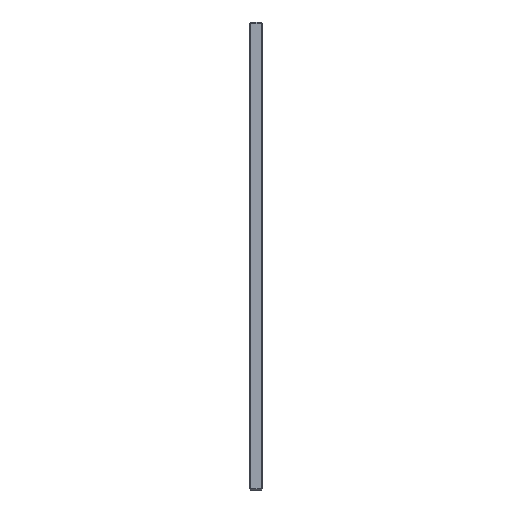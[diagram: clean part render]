
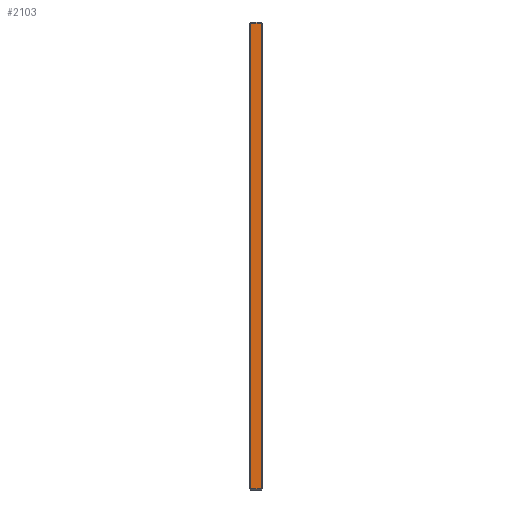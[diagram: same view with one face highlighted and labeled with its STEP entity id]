
A CAD part, left-side view. The second image highlights one B-rep face of the part: STEP entity #2103.
In plain terms, the highlighted planar face has unit normal (-1, 0, 0).
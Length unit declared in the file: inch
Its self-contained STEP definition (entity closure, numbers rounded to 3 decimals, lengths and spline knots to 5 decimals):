
#119 = CARTESIAN_POINT ( 'NONE',  ( -17.6875, 0.5, -8.825 ) ) ;
#123 = PLANE ( 'NONE',  #262 ) ;
#231 = DIRECTION ( 'NONE',  ( 0., 0., -1. ) ) ;
#261 = VECTOR ( 'NONE', #468, 39.37008 ) ;
#262 = AXIS2_PLACEMENT_3D ( 'NONE', #1902, #2142, #1770 ) ;
#340 = CARTESIAN_POINT ( 'NONE',  ( -17.6875, 0.05, 8.825 ) ) ;
#356 = ORIENTED_EDGE ( 'NONE', *, *, #1829, .T. ) ;
#402 = CARTESIAN_POINT ( 'NONE',  ( -17.6875, 0.45, -8.875 ) ) ;
#445 = LINE ( 'NONE', #2102, #261 ) ;
#468 = DIRECTION ( 'NONE',  ( 0., 1., 0. ) ) ;
#540 = FACE_OUTER_BOUND ( 'NONE', #611, .T. ) ;
#546 = ORIENTED_EDGE ( 'NONE', *, *, #871, .T. ) ;
#566 = EDGE_CURVE ( 'NONE', #1327, #2201, #445, .T. ) ;
#611 = EDGE_LOOP ( 'NONE', ( #1140, #546, #356, #2354 ) ) ;
#625 = VECTOR ( 'NONE', #1754, 39.37008 ) ;
#728 = CARTESIAN_POINT ( 'NONE',  ( -17.6875, 0.05, -8.875 ) ) ;
#756 = EDGE_CURVE ( 'NONE', #2201, #1903, #765, .T. ) ;
#765 = LINE ( 'NONE', #402, #2062 ) ;
#866 = VECTOR ( 'NONE', #1282, 39.37008 ) ;
#871 = EDGE_CURVE ( 'NONE', #1903, #1482, #1767, .T. ) ;
#932 = LINE ( 'NONE', #728, #866 ) ;
#1022 = CARTESIAN_POINT ( 'NONE',  ( -17.6875, 0.45, 8.825 ) ) ;
#1140 = ORIENTED_EDGE ( 'NONE', *, *, #756, .T. ) ;
#1282 = DIRECTION ( 'NONE',  ( 0., 0., 1. ) ) ;
#1327 = VERTEX_POINT ( 'NONE', #340 ) ;
#1333 = CARTESIAN_POINT ( 'NONE',  ( -17.6875, 0.45, -8.825 ) ) ;
#1482 = VERTEX_POINT ( 'NONE', #2017 ) ;
#1754 = DIRECTION ( 'NONE',  ( 0., -1., 0. ) ) ;
#1767 = LINE ( 'NONE', #119, #625 ) ;
#1770 = DIRECTION ( 'NONE',  ( 0., 0., -1. ) ) ;
#1829 = EDGE_CURVE ( 'NONE', #1482, #1327, #932, .T. ) ;
#1902 = CARTESIAN_POINT ( 'NONE',  ( -17.6875, 0.5, -8.875 ) ) ;
#1903 = VERTEX_POINT ( 'NONE', #1333 ) ;
#2017 = CARTESIAN_POINT ( 'NONE',  ( -17.6875, 0.05, -8.825 ) ) ;
#2062 = VECTOR ( 'NONE', #231, 39.37008 ) ;
#2102 = CARTESIAN_POINT ( 'NONE',  ( -17.6875, 0.5, 8.825 ) ) ;
#2103 = ADVANCED_FACE ( 'Placement Plane', ( #540 ), #123, .F. ) ;
#2142 = DIRECTION ( 'NONE',  ( 1., 0., 0. ) ) ;
#2201 = VERTEX_POINT ( 'NONE', #1022 ) ;
#2354 = ORIENTED_EDGE ( 'NONE', *, *, #566, .T. ) ;
